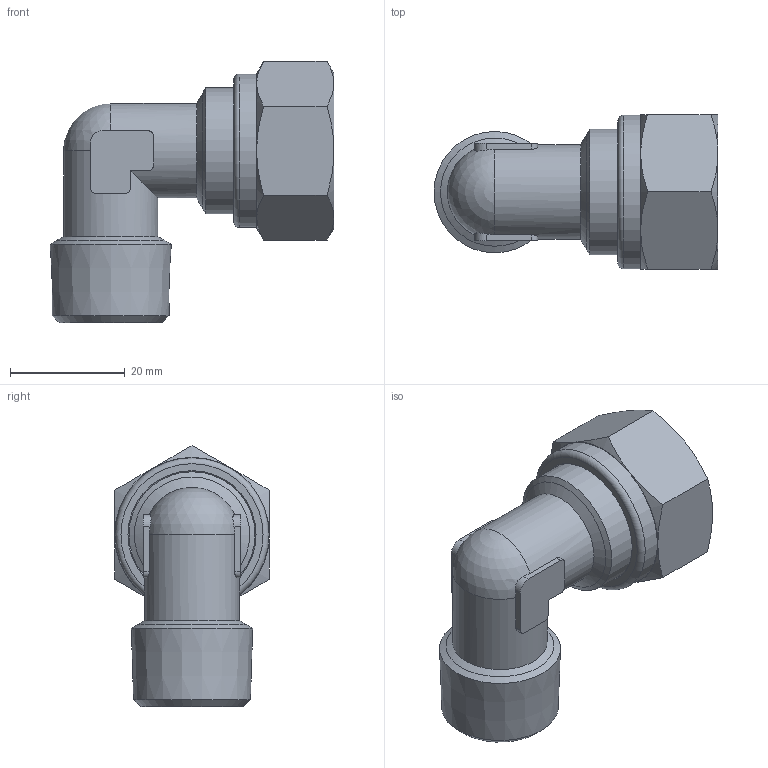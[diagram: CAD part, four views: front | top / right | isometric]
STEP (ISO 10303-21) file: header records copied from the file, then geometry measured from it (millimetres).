
FILE_DESCRIPTION(('Bauteilbeschreibung','HiCAD-Model','HiCAD-STEP-TRANSLATION','Bauteilbeschreibung'),'2;1');
FILE_NAME('B:/ABGLEICH/ZEICHNUNGEN/STEP FÜR INTERNET/STEP/205/92821_205_14_1-2.STP','2012-01-24T08:47:27+00:00',('Konstrukteur'),('Konstrukteur Firma GmbH'),' HiCAD neXt 2008, Step 3.1.1401.2J ','HiCAD neXt 2008','confidential');
FILE_SCHEMA(('AUTOMOTIVE_DESIGN { 1 2 10303 214 0 1 1 1 }'));
Length unit declared in the file: millimetre
Products named in the file (8): A2821_205_14_1_2; A2821; A28210; R 1_2; DIN 13_M22X1_5; A6806; A68060; DIN0130M22X105
Assembly tree (7 placements, depth 3):
  A2821_205_14_1_2
    A2821
    A28210
      R 1_2
      DIN 13_M22X1_5
    A6806
    A68060
      DIN0130M22X105
Bounding box: 49.59 x 27 x 45.59 mm (x, y, z)
Volume: 13591.3 mm3; surface area: 13910.8 mm2
Topology: 5 solids, 5 shells, 91 faces, 220 edges, 136 vertices
Faces by surface type: cone 33, cylinder 28, plane 28, sphere 1, torus 1
Full cylindrical faces by diameter (mm): 12 x2, 14 x2, 15 x1, 16.5 x2, 20.16 x4, 22 x3, 26.8 x1
Entity records: 4910 total; most frequent: CARTESIAN_POINT 2064, DIRECTION 420, ORIENTED_EDGE 342, AXIS2_PLACEMENT_3D 186, EDGE_CURVE 171, COLOUR_RGB 159, PRESENTATION_STYLE_ASSIGNMENT 159, CURVE_STYLE 154
